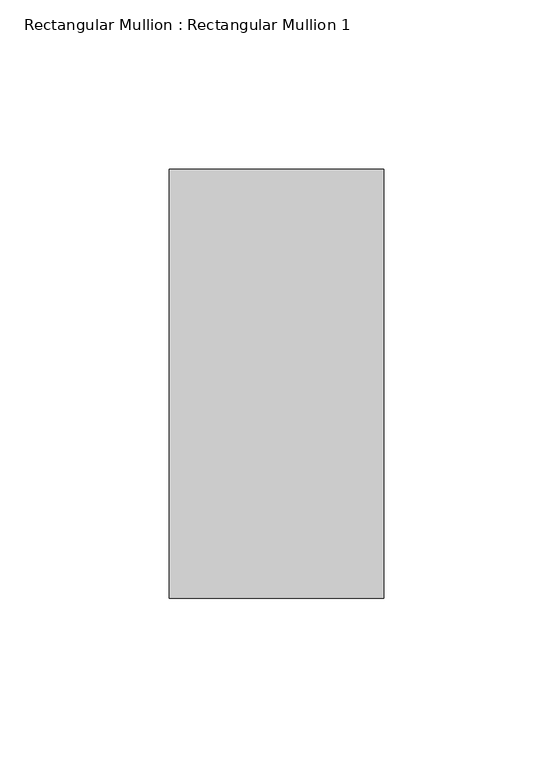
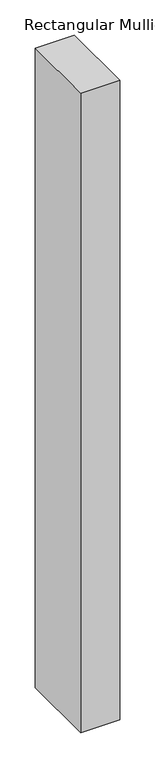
"""IFC4 building model written with IfcOpenShell, lengths in millimetres: member geometry, Rectangular Mullion : Rectangular Mullion 1."""

from ifc_helpers import new_model, si_unit, frame, origin, place, context, project, spatial, polyline, outline, extrude, source, transform, mapped, element, save


def rectangular_mullion_rectangular_mullion_1_c3de6e3d(model_context):
    return source(origin(), model_context, "Body", "SweptSolid", [
        extrude(outline(polyline([(0.0, 63.5), (0.0, -63.5), (-63.5, -63.5), (-63.5, 63.5), (0.0, 63.5)])), frame((0.0, 0.0, -1100.4592009), z_axis=(0.0, 0.0, 1.0), x_axis=(1.0, 0.0, 0.0)), (0.0, 0.0, 1.0), 1100.4592009),
    ])


if __name__ == "__main__":
    model = new_model("IFC4")
    model_context = context("Model", 3, world=origin())
    ifc_project = project(units=[si_unit("LENGTHUNIT", "METRE", prefix="MILLI")], contexts=[model_context])
    site = spatial("IfcSite", under=ifc_project)
    building = spatial("IfcBuilding", under=site)
    placement = place(None, origin())
    rectangular_mullion_rectangular_mullion_1_shape = rectangular_mullion_rectangular_mullion_1_c3de6e3d(model_context)
    element("IfcMember", 1, ObjectType="Rectangular Mullion : Rectangular Mullion 1", at=placement, inside=building, context=model_context, shape_type="MappedRepresentation", body=[
        mapped(rectangular_mullion_rectangular_mullion_1_shape, transform((0.0, 0.0, 0.0), x_axis=(1.0, 0.0, 0.0), y_axis=(0.0, 1.0, 0.0), z_axis=(0.0, 0.0, 1.0))),
    ])
    save(model, "model.ifc")
